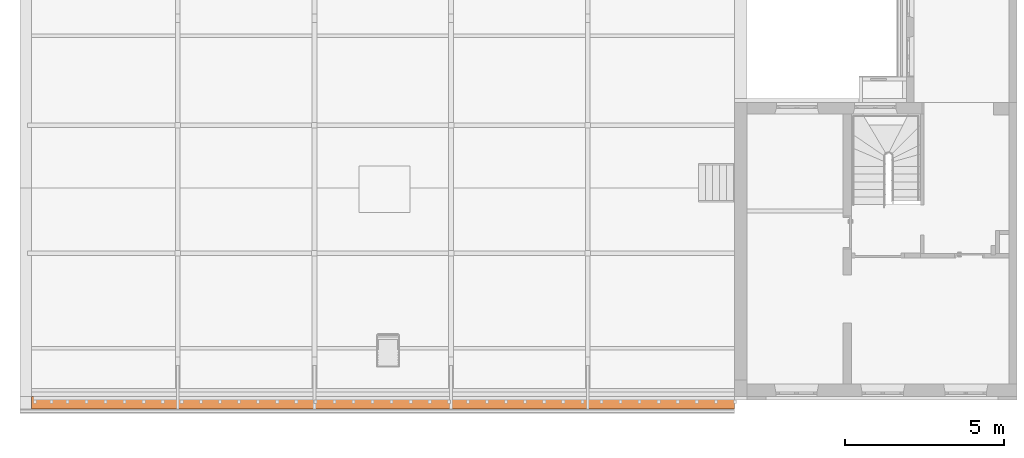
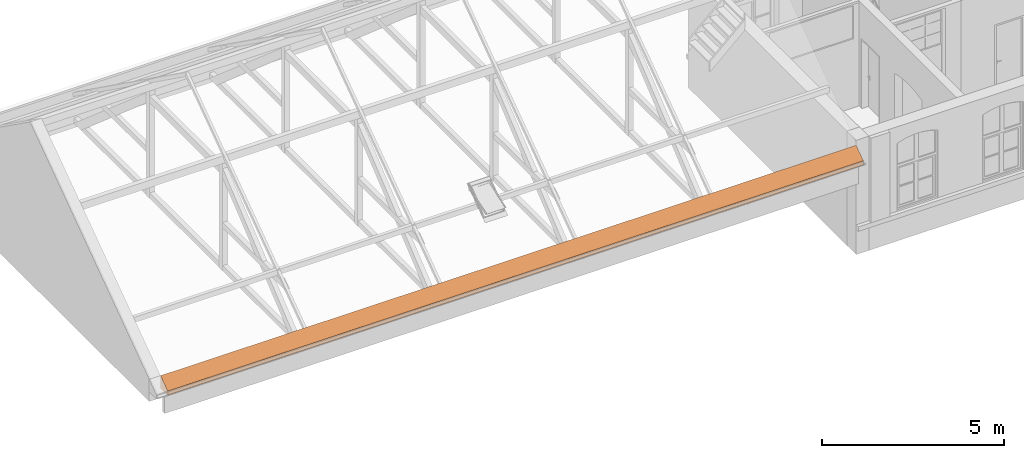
"""IFC4 building model written with IfcOpenShell, lengths in metres."""

from ifc_helpers import new_model, entity, si_unit, converted_unit, derived_unit, frame, origin, place, context, subcontext, project, spatial, faceted_brep, element, save


model = new_model("IFC4")

# Units and contexts
model_context = context("Model", 3, precision=1e-05, world=origin())
body_context = subcontext(model_context, "Body", "Model", "MODEL_VIEW")
ifc_project = project(units=[si_unit("LENGTHUNIT", "METRE"), si_unit("AREAUNIT", "SQUARE_METRE"), si_unit("VOLUMEUNIT", "CUBIC_METRE"), si_unit("MASSUNIT", "GRAM", prefix="KILO"), converted_unit("PLANEANGLEUNIT", "DEGREE", entity("IfcPlaneAngleMeasure", 0.0174532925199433), si_unit("PLANEANGLEUNIT", "RADIAN"), dimensions=[0, 0, 0, 0, 0, 0, 0]), derived_unit("THERMALTRANSMITTANCEUNIT", [(si_unit("POWERUNIT", "WATT"), 1), (si_unit("THERMODYNAMICTEMPERATUREUNIT", "KELVIN"), -1), (si_unit("LENGTHUNIT", "METRE"), -2)]), derived_unit("VOLUMETRICFLOWRATEUNIT", [(si_unit("LENGTHUNIT", "METRE"), 3), (converted_unit("TIMEUNIT", "hour", entity("IfcTimeMeasure", 3600.0), si_unit("TIMEUNIT", "SECOND"), dimensions=[0, 0, 1, 0, 0, 0, 0]), -1), (si_unit("LENGTHUNIT", "METRE"), -1)])], contexts=[model_context])

# Building, storeys
building_placement = place(None, origin())
building = spatial("IfcBuilding", under=ifc_project, at=building_placement, Name="Bestandsgebäude A - Sporthalle / Wohnhaus (TB 100-499)   ANPASSEN !!!", CompositionType="ELEMENT")
storey_1_placement = place(building_placement, frame((0.0, 0.0, 3.87)))
storey_1 = spatial("IfcBuildingStorey", under=building, at=storey_1_placement, Name="Geb. A 1. Obergeschoss (TB 250-299)", CompositionType="ELEMENT", Elevation=3.87)
storey_2_placement = place(storey_1_placement, frame((0.0, 0.0, 3.87)))
storey_2 = spatial("IfcBuildingStorey", under=storey_1, at=storey_2_placement, Name="Architektur (TB 250-259)", CompositionType="PARTIAL")

# Proxy
proxy_placement = place(storey_2_placement, frame((-31.01, -0.399606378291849, -1.02)))
element("IfcBuildingElementProxy", 1, at=proxy_placement, inside=storey_2, context=body_context, shape_type="Brep", body=[
    faceted_brep([(0.0, 0.0, 0.139999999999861), (22.1099997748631, 0.0, 0.139999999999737), (22.1099997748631, 0.0, 0.0), (0.0, 0.0, 0.0), (22.1099997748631, 0.399606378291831, 0.424615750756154), (22.1099997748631, 0.399606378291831, 0.0), (0.0, 0.399606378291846, 0.0), (0.0, 0.399606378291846, 0.424615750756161)], [[[0, 1, 2, 3]], [[2, 1, 4, 5]], [[3, 2, 5, 6]], [[4, 1, 0, 7]], [[6, 5, 4, 7]], [[3, 6, 7, 0]]], orient=[[False], [False], [False], [False], [False], [False]]),
])

save(model, "model.ifc")
